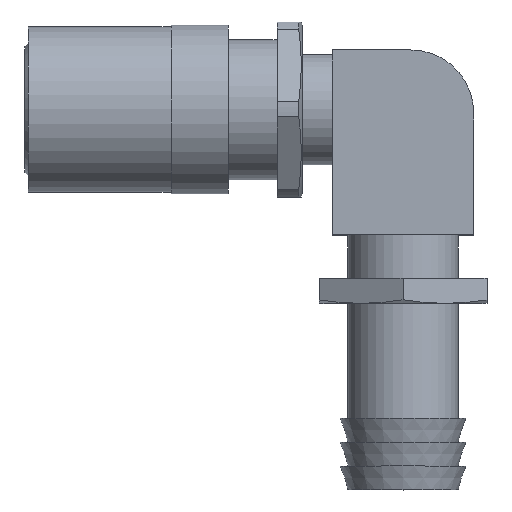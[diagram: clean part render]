
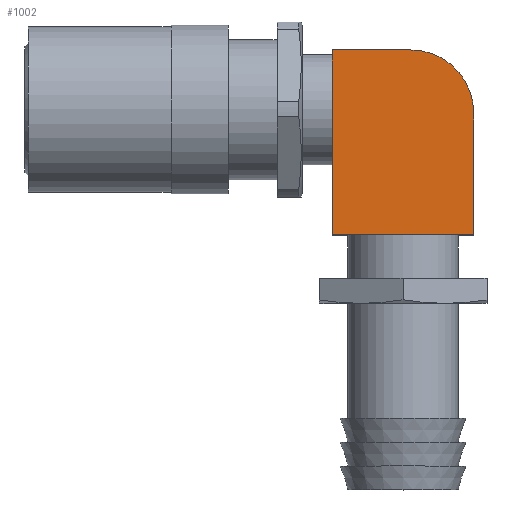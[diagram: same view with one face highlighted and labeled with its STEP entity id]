
A CAD part, top view. The second image highlights one B-rep face of the part: STEP entity #1002.
In plain terms, the highlighted planar face has unit normal (0, 0, 1).
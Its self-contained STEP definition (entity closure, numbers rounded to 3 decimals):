
#31=PLANE('',#1127);
#127=CIRCLE('',#1126,11.43);
#285=ORIENTED_EDGE('',*,*,#503,.T.);
#286=ORIENTED_EDGE('',*,*,#507,.T.);
#287=ORIENTED_EDGE('',*,*,#511,.T.);
#288=ORIENTED_EDGE('',*,*,#514,.T.);
#289=ORIENTED_EDGE('',*,*,#516,.T.);
#503=EDGE_CURVE('',#615,#614,#674,.T.);
#507=EDGE_CURVE('',#614,#617,#678,.T.);
#511=EDGE_CURVE('',#617,#620,#681,.T.);
#514=EDGE_CURVE('',#620,#622,#684,.T.);
#516=EDGE_CURVE('',#622,#615,#127,.T.);
#614=VERTEX_POINT('',#1748);
#615=VERTEX_POINT('',#1750);
#617=VERTEX_POINT('',#1756);
#620=VERTEX_POINT('',#1764);
#622=VERTEX_POINT('',#1770);
#674=LINE('',#1749,#727);
#678=LINE('',#1757,#731);
#681=LINE('',#1765,#734);
#684=LINE('',#1771,#737);
#727=VECTOR('',#1357,1000.);
#731=VECTOR('',#1363,1000.);
#734=VECTOR('',#1370,1000.);
#737=VECTOR('',#1375,1000.);
#796=EDGE_LOOP('',(#285,#286,#287,#288,#289));
#895=FACE_BOUND('',#796,.T.);
#1002=ADVANCED_FACE('',(#895),#31,.T.);
#1126=AXIS2_PLACEMENT_3D('',#1774,#1380,#1381);
#1127=AXIS2_PLACEMENT_3D('',#1775,#1382,#1383);
#1357=DIRECTION('',(-1.,0.,0.));
#1363=DIRECTION('',(0.,-1.,0.));
#1370=DIRECTION('',(1.,0.,0.));
#1375=DIRECTION('',(0.,1.,0.));
#1380=DIRECTION('',(0.,0.,1.));
#1381=DIRECTION('',(1.,0.,0.));
#1382=DIRECTION('',(0.,0.,1.));
#1383=DIRECTION('',(1.,0.,0.));
#1748=CARTESIAN_POINT('',(55.173,10.795,12.7));
#1749=CARTESIAN_POINT('',(69.397,10.795,12.7));
#1750=CARTESIAN_POINT('',(69.397,10.795,12.7));
#1756=CARTESIAN_POINT('',(55.173,-22.733,12.7));
#1757=CARTESIAN_POINT('',(55.173,10.795,12.7));
#1764=CARTESIAN_POINT('',(80.827,-22.733,12.7));
#1765=CARTESIAN_POINT('',(55.173,-22.733,12.7));
#1770=CARTESIAN_POINT('',(80.827,-0.635,12.7));
#1771=CARTESIAN_POINT('',(80.827,-22.733,12.7));
#1774=CARTESIAN_POINT('',(69.397,-0.635,12.7));
#1775=CARTESIAN_POINT('',(69.397,-0.635,12.7));
